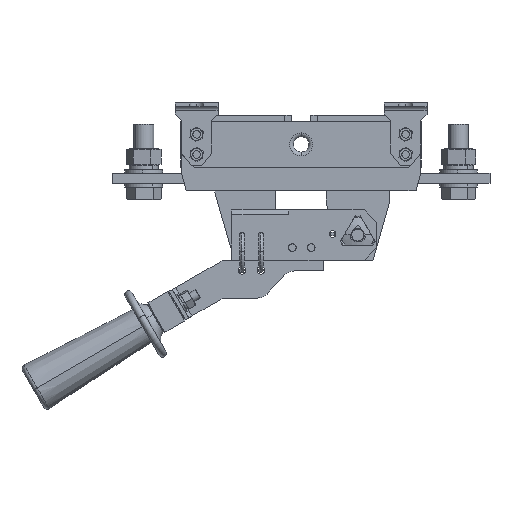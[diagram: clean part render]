
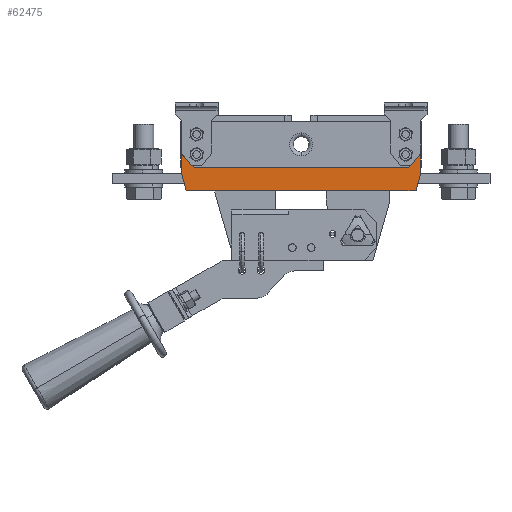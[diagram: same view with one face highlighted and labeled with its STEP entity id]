
A CAD part, left-side view. The second image highlights one B-rep face of the part: STEP entity #62475.
In plain terms, the highlighted planar face has unit normal (-1, 0, 0).
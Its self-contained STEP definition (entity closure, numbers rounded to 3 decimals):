
#2254 = AXIS2_PLACEMENT_3D ( 'NONE', #3024, #3013, #3015 ) ;
#2684 = CIRCLE ( 'NONE', #2254, 3.5 ) ;
#3013 = DIRECTION ( 'NONE',  ( -1., 0., 0. ) ) ;
#3015 = DIRECTION ( 'NONE',  ( 0., -1., 0. ) ) ;
#3024 = CARTESIAN_POINT ( 'NONE',  ( -111.5, -83., -8. ) ) ;
#3449 = DIRECTION ( 'NONE',  ( 0., -1., 0. ) ) ;
#3450 = VECTOR ( 'NONE', #3449, 1000. ) ;
#3451 = LINE ( 'NONE', #3522, #3450 ) ;
#3481 = CARTESIAN_POINT ( 'NONE',  ( -111.5, -79.5, -8. ) ) ;
#3482 = DIRECTION ( 'NONE',  ( 0., -0.259, 0.966 ) ) ;
#3483 = VECTOR ( 'NONE', #3482, 1000. ) ;
#3484 = CARTESIAN_POINT ( 'NONE',  ( -111.5, -91.249, -37. ) ) ;
#3485 = LINE ( 'NONE', #3484, #3483 ) ;
#3486 = CARTESIAN_POINT ( 'NONE',  ( -111.5, 91.249, -37. ) ) ;
#3503 = CARTESIAN_POINT ( 'NONE',  ( -111.5, -91.249, -37. ) ) ;
#3522 = CARTESIAN_POINT ( 'NONE',  ( -111.5, -91.249, -37. ) ) ;
#3532 = CARTESIAN_POINT ( 'NONE',  ( -111.5, -95., -1. ) ) ;
#3533 = CARTESIAN_POINT ( 'NONE',  ( -111.5, -7.937, -1. ) ) ;
#3555 = DIRECTION ( 'NONE',  ( 0., -1., 0. ) ) ;
#3556 = DIRECTION ( 'NONE',  ( -1., 0., 0. ) ) ;
#3558 = AXIS2_PLACEMENT_3D ( 'NONE', #3616, #3556, #3555 ) ;
#3561 = DIRECTION ( 'NONE',  ( 0., 1., 0. ) ) ;
#3562 = VECTOR ( 'NONE', #3561, 1000. ) ;
#3570 = CIRCLE ( 'NONE', #3558, 3.5 ) ;
#3581 = CIRCLE ( 'NONE', #3737, 8. ) ;
#3583 = CARTESIAN_POINT ( 'NONE',  ( -111.5, 0., 0. ) ) ;
#3594 = DIRECTION ( 'NONE',  ( 0., 1., 0. ) ) ;
#3595 = DIRECTION ( 'NONE',  ( 1., 0., 0. ) ) ;
#3596 = CARTESIAN_POINT ( 'NONE',  ( -111.5, 91.249, -37. ) ) ;
#3597 = LINE ( 'NONE', #3596, #3735 ) ;
#3613 = CARTESIAN_POINT ( 'NONE',  ( -111.5, 95., -1. ) ) ;
#3614 = LINE ( 'NONE', #3613, #3562 ) ;
#3616 = CARTESIAN_POINT ( 'NONE',  ( -111.5, -83., -8. ) ) ;
#3633 = DIRECTION ( 'NONE',  ( 0., 1., 0. ) ) ;
#3634 = DIRECTION ( 'NONE',  ( -1., 0., 0. ) ) ;
#3635 = CARTESIAN_POINT ( 'NONE',  ( -111.5, 0., 0. ) ) ;
#3636 = AXIS2_PLACEMENT_3D ( 'NONE', #3635, #3634, #3633 ) ;
#3646 = CARTESIAN_POINT ( 'NONE',  ( -111.5, 95., -23. ) ) ;
#3661 = DIRECTION ( 'NONE',  ( 0., 0., 1. ) ) ;
#3662 = VECTOR ( 'NONE', #3661, 1000. ) ;
#3666 = PLANE ( 'NONE',  #3636 ) ;
#3667 = CARTESIAN_POINT ( 'NONE',  ( -111.5, -95., -23. ) ) ;
#3668 = LINE ( 'NONE', #3667, #3662 ) ;
#3675 = FACE_BOUND ( 'NONE', #62523, .T. ) ;
#3676 = DIRECTION ( 'NONE',  ( 0., 1., 0. ) ) ;
#3677 = FACE_BOUND ( 'NONE', #62497, .T. ) ;
#3683 = CARTESIAN_POINT ( 'NONE',  ( -111.5, 95., -1. ) ) ;
#3685 = CARTESIAN_POINT ( 'NONE',  ( -111.5, -86.5, -8. ) ) ;
#3690 = VECTOR ( 'NONE', #3676, 1000. ) ;
#3691 = CARTESIAN_POINT ( 'NONE',  ( -111.5, -7.937, -1. ) ) ;
#3692 = LINE ( 'NONE', #3691, #3690 ) ;
#3693 = DIRECTION ( 'NONE',  ( 0., 1., 0. ) ) ;
#3694 = DIRECTION ( 'NONE',  ( -1., 0., 0. ) ) ;
#3695 = CARTESIAN_POINT ( 'NONE',  ( -111.5, 83., -8. ) ) ;
#3696 = AXIS2_PLACEMENT_3D ( 'NONE', #3695, #3694, #3693 ) ;
#3702 = CARTESIAN_POINT ( 'NONE',  ( -111.5, -95., -23. ) ) ;
#3703 = CARTESIAN_POINT ( 'NONE',  ( -111.5, 86.5, -8. ) ) ;
#3707 = FACE_OUTER_BOUND ( 'NONE', #62415, .T. ) ;
#3710 = CIRCLE ( 'NONE', #3696, 3.5 ) ;
#3717 = DIRECTION ( 'NONE',  ( 0., 0., -1. ) ) ;
#3718 = VECTOR ( 'NONE', #3717, 1000. ) ;
#3719 = CARTESIAN_POINT ( 'NONE',  ( -111.5, 95., -23. ) ) ;
#3724 = LINE ( 'NONE', #3719, #3718 ) ;
#3734 = DIRECTION ( 'NONE',  ( 0., -0.259, -0.966 ) ) ;
#3735 = VECTOR ( 'NONE', #3734, 1000. ) ;
#3736 = CARTESIAN_POINT ( 'NONE',  ( -111.5, 7.937, -1. ) ) ;
#3737 = AXIS2_PLACEMENT_3D ( 'NONE', #3583, #3595, #3594 ) ;
#3889 = DIRECTION ( 'NONE',  ( 0., 1., 0. ) ) ;
#3890 = DIRECTION ( 'NONE',  ( -1., 0., 0. ) ) ;
#3891 = CARTESIAN_POINT ( 'NONE',  ( -111.5, 83., -8. ) ) ;
#3892 = AXIS2_PLACEMENT_3D ( 'NONE', #3891, #3890, #3889 ) ;
#3893 = CIRCLE ( 'NONE', #3892, 3.5 ) ;
#3918 = CARTESIAN_POINT ( 'NONE',  ( -111.5, 79.5, -8. ) ) ;
#62406 = EDGE_CURVE ( 'NONE', #62412, #62456, #3485, .T. ) ;
#62407 = ORIENTED_EDGE ( 'NONE', *, *, #62447, .T. ) ;
#62408 = VERTEX_POINT ( 'NONE', #3533 ) ;
#62409 = VERTEX_POINT ( 'NONE', #3486 ) ;
#62410 = VERTEX_POINT ( 'NONE', #3532 ) ;
#62411 = ORIENTED_EDGE ( 'NONE', *, *, #62450, .T. ) ;
#62412 = VERTEX_POINT ( 'NONE', #3503 ) ;
#62413 = VERTEX_POINT ( 'NONE', #3481 ) ;
#62415 = EDGE_LOOP ( 'NONE', ( #62411, #62407, #62495, #62474, #62432, #62418, #62490, #62543 ) ) ;
#62417 = EDGE_CURVE ( 'NONE', #62409, #62412, #3451, .T. ) ;
#62418 = ORIENTED_EDGE ( 'NONE', *, *, #62462, .T. ) ;
#62422 = ORIENTED_EDGE ( 'NONE', *, *, #62496, .F. ) ;
#62432 = ORIENTED_EDGE ( 'NONE', *, *, #62471, .T. ) ;
#62433 = EDGE_CURVE ( 'NONE', #62463, #62413, #2684, .T. ) ;
#62440 = VERTEX_POINT ( 'NONE', #3646 ) ;
#62442 = ORIENTED_EDGE ( 'NONE', *, *, #62433, .F. ) ;
#62445 = EDGE_CURVE ( 'NONE', #62408, #62467, #3581, .T. ) ;
#62446 = VERTEX_POINT ( 'NONE', #3683 ) ;
#62447 = EDGE_CURVE ( 'NONE', #62440, #62409, #3597, .T. ) ;
#62448 = ORIENTED_EDGE ( 'NONE', *, *, #62537, .F. ) ;
#62450 = EDGE_CURVE ( 'NONE', #62446, #62440, #3724, .T. ) ;
#62456 = VERTEX_POINT ( 'NONE', #3702 ) ;
#62457 = EDGE_CURVE ( 'NONE', #62468, #62535, #3710, .T. ) ;
#62462 = EDGE_CURVE ( 'NONE', #62410, #62408, #3692, .T. ) ;
#62463 = VERTEX_POINT ( 'NONE', #3685 ) ;
#62467 = VERTEX_POINT ( 'NONE', #3736 ) ;
#62468 = VERTEX_POINT ( 'NONE', #3703 ) ;
#62471 = EDGE_CURVE ( 'NONE', #62456, #62410, #3668, .T. ) ;
#62474 = ORIENTED_EDGE ( 'NONE', *, *, #62406, .T. ) ;
#62475 = ADVANCED_FACE ( 'NONE', ( #3677, #3707, #3675 ), #3666, .T. ) ;
#62490 = ORIENTED_EDGE ( 'NONE', *, *, #62445, .T. ) ;
#62491 = EDGE_CURVE ( 'NONE', #62467, #62446, #3614, .T. ) ;
#62495 = ORIENTED_EDGE ( 'NONE', *, *, #62417, .T. ) ;
#62496 = EDGE_CURVE ( 'NONE', #62413, #62463, #3570, .T. ) ;
#62497 = EDGE_LOOP ( 'NONE', ( #62534, #62448 ) ) ;
#62523 = EDGE_LOOP ( 'NONE', ( #62442, #62422 ) ) ;
#62534 = ORIENTED_EDGE ( 'NONE', *, *, #62457, .F. ) ;
#62535 = VERTEX_POINT ( 'NONE', #3918 ) ;
#62537 = EDGE_CURVE ( 'NONE', #62535, #62468, #3893, .T. ) ;
#62543 = ORIENTED_EDGE ( 'NONE', *, *, #62491, .T. ) ;
